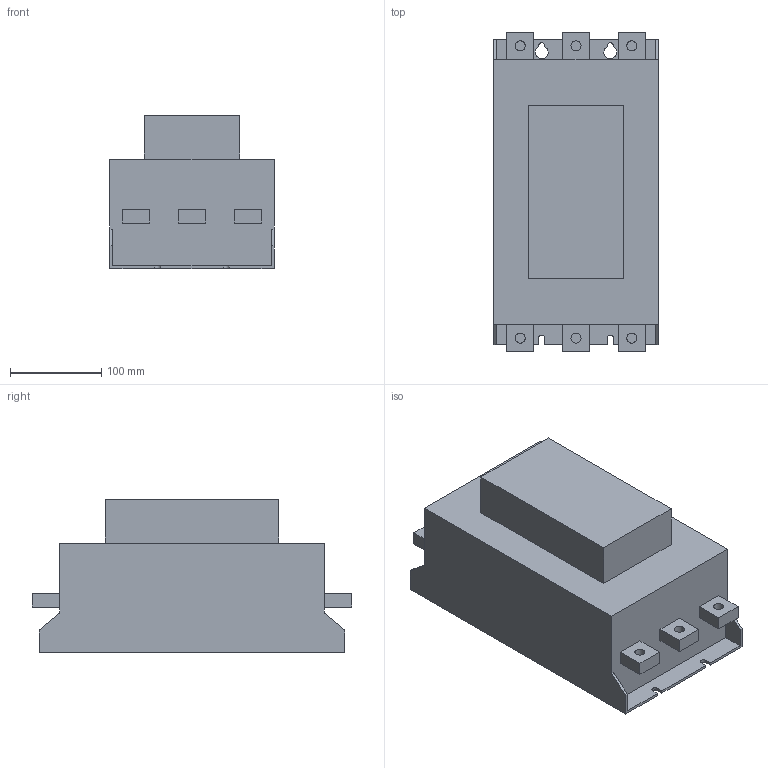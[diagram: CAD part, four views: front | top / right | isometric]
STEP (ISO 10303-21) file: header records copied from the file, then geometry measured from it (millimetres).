
FILE_DESCRIPTION(/* description */ (''),/* implementation_level */ '2;1');
FILE_NAME(/* name */ 'O:\БЭМ\Personal\Абрамов\262-20-1 ТП Драчево\3D Inventor\MCD1\MCD5 F2.stp',/* time_stamp */ '2023-10-11T08:14:06+03:00',/* author */ ('a.abramov'),/* organization */ (''),/* preprocessor_version */ 'ST-DEVELOPER v18.1',/* originating_system */ 'Autodesk Inventor 2022',/* authorisation */ '');
FILE_SCHEMA (('AUTOMOTIVE_DESIGN { 1 0 10303 214 3 1 1 }'));
Length unit declared in the file: millimetre
Products named in the file (1): MCD5 F2
Bounding box: 180 x 350 x 168 mm (x, y, z)
Volume: 7319744.1 mm3; surface area: 284524.2 mm2
Topology: 1 solids, 1 shells, 71 faces, 186 edges, 124 vertices
Faces by surface type: plane 59, cylinder 12
Full cylindrical faces by diameter (mm): 11 x6
Entity records: 2237 total; most frequent: CARTESIAN_POINT 382, ORIENTED_EDGE 372, DIRECTION 354, EDGE_CURVE 186, LINE 162, VECTOR 162, VERTEX_POINT 124, AXIS2_PLACEMENT_3D 96
